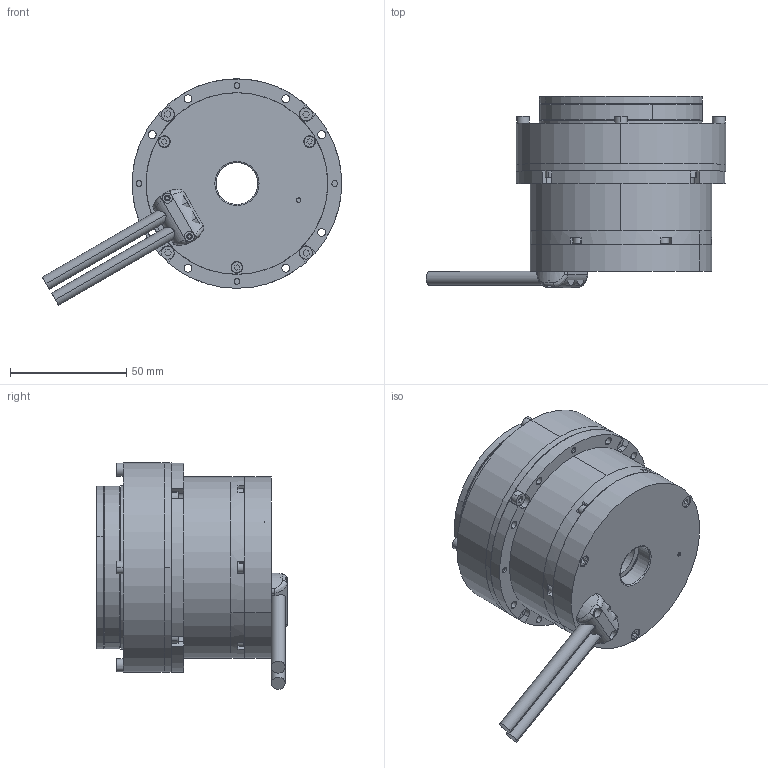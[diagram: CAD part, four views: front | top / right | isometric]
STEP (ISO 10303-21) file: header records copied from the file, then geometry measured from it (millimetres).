
FILE_DESCRIPTION (( 'STEP AP214' ), '1' );
FILE_NAME ('RH-20-N_B.STEP', '2024-05-22T02:09:30', ( '' ), ( '' ), 'SwSTEP 2.0', 'SolidWorks 2020', '' );
FILE_SCHEMA (( 'AUTOMOTIVE_DESIGN' ));
Length unit declared in the file: millimetre
Products named in the file (1): RH-20-N_B
Bounding box: 128.57 x 82 x 97.28 mm (x, y, z)
Surface area: 68638.8 mm2 (no closed solid volume)
Topology: 0 solids, 209 shells, 786 faces, 3210 edges, 2626 vertices
Faces by surface type: plane 375, cylinder 295, bspline 97, torus 9, cone 5, sphere 5
Entity records: 46108 total; most frequent: CARTESIAN_POINT 11727, DIRECTION 5053, ORIENTED_EDGE 4346, EDGE_CURVE 3203, VERTEX_POINT 2626, VECTOR 1739, LINE 1739, AXIS2_PLACEMENT_3D 1657
